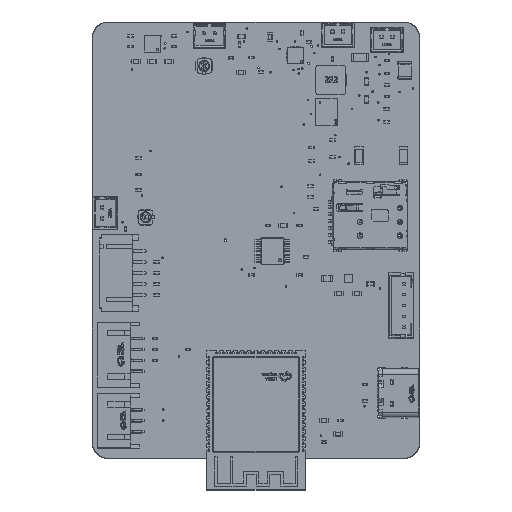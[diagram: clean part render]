
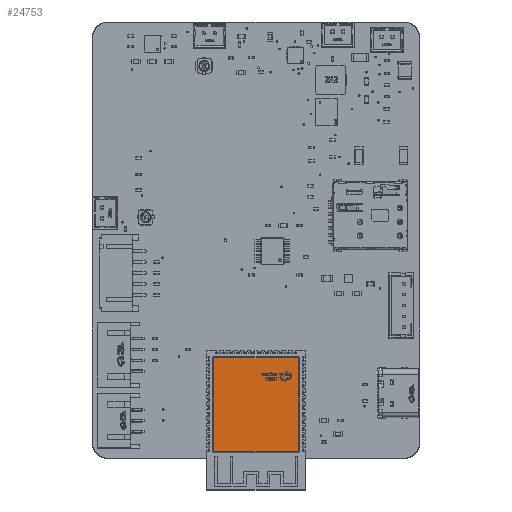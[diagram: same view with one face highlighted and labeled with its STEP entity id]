
A CAD part, top view. The second image highlights one B-rep face of the part: STEP entity #24753.
In plain terms, the highlighted planar face has unit normal (0, 0, 1).
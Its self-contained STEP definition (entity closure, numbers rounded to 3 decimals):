
#24471 = CYLINDRICAL_SURFACE('',#24472,0.2);
#24472 = AXIS2_PLACEMENT_3D('',#24473,#24474,#24475);
#24473 = CARTESIAN_POINT('',(-49.494,-11.488,-4.315));
#24474 = DIRECTION('',(0.,-1.,0.));
#24475 = DIRECTION('',(0.,0.,1.));
#24547 = CYLINDRICAL_SURFACE('',#24548,0.2);
#24548 = AXIS2_PLACEMENT_3D('',#24549,#24550,#24551);
#24549 = CARTESIAN_POINT('',(-41.794,-17.188,-4.315));
#24550 = DIRECTION('',(1.,0.,0.));
#24551 = DIRECTION('',(0.,0.,1.));
#24645 = CYLINDRICAL_SURFACE('',#24646,0.2);
#24646 = AXIS2_PLACEMENT_3D('',#24647,#24648,#24649);
#24647 = CARTESIAN_POINT('',(-34.094,-11.488,-4.315));
#24648 = DIRECTION('',(0.,1.,0.));
#24649 = DIRECTION('',(0.,0.,-1.));
#24699 = CYLINDRICAL_SURFACE('',#24700,0.2);
#24700 = AXIS2_PLACEMENT_3D('',#24701,#24702,#24703);
#24701 = CARTESIAN_POINT('',(-41.794,0.012,-4.315)
  );
#24702 = DIRECTION('',(-1.,0.,0.));
#24703 = DIRECTION('',(0.,0.,-1.));
#24753 = ADVANCED_FACE('',(#24754),#24768,.F.);
#24754 = FACE_BOUND('',#24755,.T.);
#24755 = EDGE_LOOP('',(#24756,#24786,#24809,#24832));
#24756 = ORIENTED_EDGE('',*,*,#24757,.T.);
#24757 = EDGE_CURVE('',#24758,#24760,#24762,.T.);
#24758 = VERTEX_POINT('',#24759);
#24759 = CARTESIAN_POINT('',(-34.094,-17.188,-4.115));
#24760 = VERTEX_POINT('',#24761);
#24761 = CARTESIAN_POINT('',(-34.094,0.012,-4.115));
#24762 = SURFACE_CURVE('',#24763,(#24767,#24779),.PCURVE_S1.);
#24763 = LINE('',#24764,#24765);
#24764 = CARTESIAN_POINT('',(-34.094,-11.488,-4.115));
#24765 = VECTOR('',#24766,1.);
#24766 = DIRECTION('',(0.,1.,0.));
#24767 = PCURVE('',#24768,#24773);
#24768 = PLANE('',#24769);
#24769 = AXIS2_PLACEMENT_3D('',#24770,#24771,#24772);
#24770 = CARTESIAN_POINT('',(-41.794,-11.488,-4.115));
#24771 = DIRECTION('',(0.,0.,-1.));
#24772 = DIRECTION('',(1.,0.,0.));
#24773 = DEFINITIONAL_REPRESENTATION('',(#24774),#24778);
#24774 = LINE('',#24775,#24776);
#24775 = CARTESIAN_POINT('',(7.7,0.));
#24776 = VECTOR('',#24777,1.);
#24777 = DIRECTION('',(0.,-1.));
#24778 = ( GEOMETRIC_REPRESENTATION_CONTEXT(2) 
PARAMETRIC_REPRESENTATION_CONTEXT() REPRESENTATION_CONTEXT('2D SPACE',''
  ) );
#24779 = PCURVE('',#24645,#24780);
#24780 = DEFINITIONAL_REPRESENTATION('',(#24781),#24785);
#24781 = LINE('',#24782,#24783);
#24782 = CARTESIAN_POINT('',(3.142,0.));
#24783 = VECTOR('',#24784,1.);
#24784 = DIRECTION('',(0.,1.));
#24785 = ( GEOMETRIC_REPRESENTATION_CONTEXT(2) 
PARAMETRIC_REPRESENTATION_CONTEXT() REPRESENTATION_CONTEXT('2D SPACE',''
  ) );
#24786 = ORIENTED_EDGE('',*,*,#24787,.T.);
#24787 = EDGE_CURVE('',#24760,#24788,#24790,.T.);
#24788 = VERTEX_POINT('',#24789);
#24789 = CARTESIAN_POINT('',(-49.494,0.012,-4.115));
#24790 = SURFACE_CURVE('',#24791,(#24795,#24802),.PCURVE_S1.);
#24791 = LINE('',#24792,#24793);
#24792 = CARTESIAN_POINT('',(-41.794,0.012,-4.115)
  );
#24793 = VECTOR('',#24794,1.);
#24794 = DIRECTION('',(-1.,0.,0.));
#24795 = PCURVE('',#24768,#24796);
#24796 = DEFINITIONAL_REPRESENTATION('',(#24797),#24801);
#24797 = LINE('',#24798,#24799);
#24798 = CARTESIAN_POINT('',(0.,-11.5));
#24799 = VECTOR('',#24800,1.);
#24800 = DIRECTION('',(-1.,0.));
#24801 = ( GEOMETRIC_REPRESENTATION_CONTEXT(2) 
PARAMETRIC_REPRESENTATION_CONTEXT() REPRESENTATION_CONTEXT('2D SPACE',''
  ) );
#24802 = PCURVE('',#24699,#24803);
#24803 = DEFINITIONAL_REPRESENTATION('',(#24804),#24808);
#24804 = LINE('',#24805,#24806);
#24805 = CARTESIAN_POINT('',(3.142,0.));
#24806 = VECTOR('',#24807,1.);
#24807 = DIRECTION('',(0.,1.));
#24808 = ( GEOMETRIC_REPRESENTATION_CONTEXT(2) 
PARAMETRIC_REPRESENTATION_CONTEXT() REPRESENTATION_CONTEXT('2D SPACE',''
  ) );
#24809 = ORIENTED_EDGE('',*,*,#24810,.T.);
#24810 = EDGE_CURVE('',#24788,#24811,#24813,.T.);
#24811 = VERTEX_POINT('',#24812);
#24812 = CARTESIAN_POINT('',(-49.494,-17.188,-4.115));
#24813 = SURFACE_CURVE('',#24814,(#24818,#24825),.PCURVE_S1.);
#24814 = LINE('',#24815,#24816);
#24815 = CARTESIAN_POINT('',(-49.494,-11.488,-4.115));
#24816 = VECTOR('',#24817,1.);
#24817 = DIRECTION('',(0.,-1.,0.));
#24818 = PCURVE('',#24768,#24819);
#24819 = DEFINITIONAL_REPRESENTATION('',(#24820),#24824);
#24820 = LINE('',#24821,#24822);
#24821 = CARTESIAN_POINT('',(-7.7,0.));
#24822 = VECTOR('',#24823,1.);
#24823 = DIRECTION('',(0.,1.));
#24824 = ( GEOMETRIC_REPRESENTATION_CONTEXT(2) 
PARAMETRIC_REPRESENTATION_CONTEXT() REPRESENTATION_CONTEXT('2D SPACE',''
  ) );
#24825 = PCURVE('',#24471,#24826);
#24826 = DEFINITIONAL_REPRESENTATION('',(#24827),#24831);
#24827 = LINE('',#24828,#24829);
#24828 = CARTESIAN_POINT('',(0.,0.));
#24829 = VECTOR('',#24830,1.);
#24830 = DIRECTION('',(0.,1.));
#24831 = ( GEOMETRIC_REPRESENTATION_CONTEXT(2) 
PARAMETRIC_REPRESENTATION_CONTEXT() REPRESENTATION_CONTEXT('2D SPACE',''
  ) );
#24832 = ORIENTED_EDGE('',*,*,#24833,.T.);
#24833 = EDGE_CURVE('',#24811,#24758,#24834,.T.);
#24834 = SURFACE_CURVE('',#24835,(#24839,#24846),.PCURVE_S1.);
#24835 = LINE('',#24836,#24837);
#24836 = CARTESIAN_POINT('',(-41.794,-17.188,-4.115));
#24837 = VECTOR('',#24838,1.);
#24838 = DIRECTION('',(1.,0.,0.));
#24839 = PCURVE('',#24768,#24840);
#24840 = DEFINITIONAL_REPRESENTATION('',(#24841),#24845);
#24841 = LINE('',#24842,#24843);
#24842 = CARTESIAN_POINT('',(0.,5.7));
#24843 = VECTOR('',#24844,1.);
#24844 = DIRECTION('',(1.,0.));
#24845 = ( GEOMETRIC_REPRESENTATION_CONTEXT(2) 
PARAMETRIC_REPRESENTATION_CONTEXT() REPRESENTATION_CONTEXT('2D SPACE',''
  ) );
#24846 = PCURVE('',#24547,#24847);
#24847 = DEFINITIONAL_REPRESENTATION('',(#24848),#24852);
#24848 = LINE('',#24849,#24850);
#24849 = CARTESIAN_POINT('',(0.,0.));
#24850 = VECTOR('',#24851,1.);
#24851 = DIRECTION('',(0.,1.));
#24852 = ( GEOMETRIC_REPRESENTATION_CONTEXT(2) 
PARAMETRIC_REPRESENTATION_CONTEXT() REPRESENTATION_CONTEXT('2D SPACE',''
  ) );
